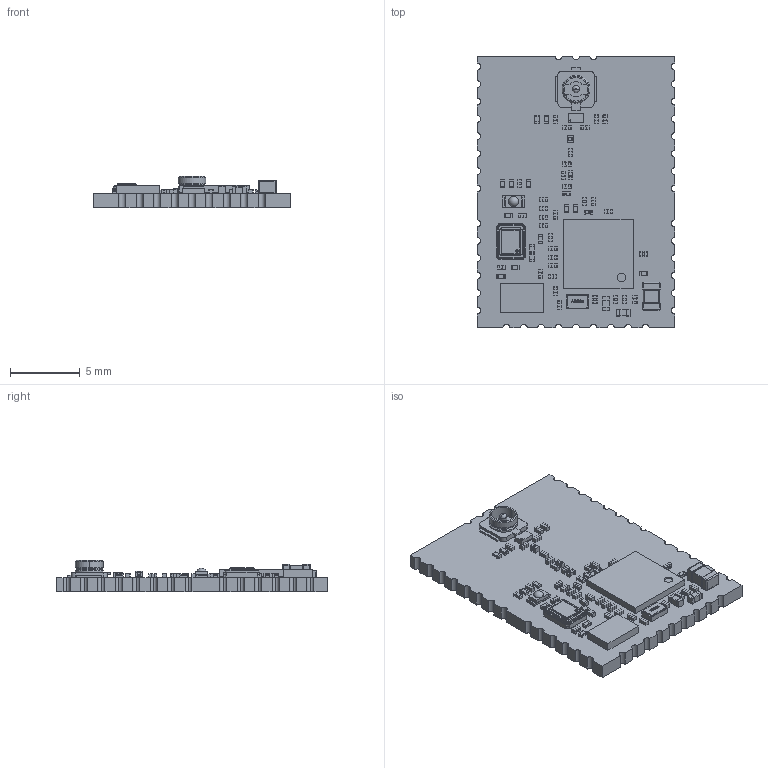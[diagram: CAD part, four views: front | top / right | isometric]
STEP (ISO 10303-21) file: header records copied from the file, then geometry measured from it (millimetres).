
FILE_DESCRIPTION(('Open CASCADE Model'),'2;1');
FILE_NAME('Open CASCADE Shape Model','2022-01-10T16:25:52',('Author'),( 'Open CASCADE'),'Open CASCADE STEP processor 6.8','Open CASCADE 6.8' ,'Unknown');
FILE_SCHEMA(('AUTOMOTIVE_DESIGN { 1 0 10303 214 1 1 1 1 }'));
Length unit declared in the file: millimetre
Products named in the file (134): PCB; Board; Open CASCADE STEP translator 6.8 10.1.1; Open CASCADE STEP translator 6.8 10.1.1.1; JP301; 6695798944; Extruded; 6695795264; 6695798864; C308; R0201; C304; X301; User_Library-NT2016SA-END4910A-48MHZ_Crystal_(NDK); X300; User_Library-Crystal_NDK_NX2520SA_series; R302; Y200; ABS05; R307; R306; C208; User_Library-cap_0201; C205; J303; U.FL-R-SMT-1; U301; User_Library-6-XFDFN-1; chipBody; pin02; pin04; pin06; pin01; pin03; pin05; pinOut005; pinOut006; pinOut003; pinOut008; pinOut007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
Assembly tree (312 placements, depth 5):
  PCB
    Board
      Open CASCADE STEP translator 6.8 10.1.1
        Open CASCADE STEP translator 6.8 10.1.1.1
    JP301
      6695798944
        Extruded
      6695795264
        Extruded
      6695798864
        Extruded
    C308
      R0201
      R0201
      R0201
      R0201
    C304
      R0201
      R0201
      R0201
      R0201
    X301
      User_Library-NT2016SA-END4910A-48MHZ_Crystal_(NDK)
    X300
      User_Library-Crystal_NDK_NX2520SA_series
    R302
      R0201
      R0201
      R0201
      R0201
    JP301
      6695798864
        Extruded
      6695795264
        Extruded
      6695798944
        Extruded
    Y200
      ABS05
    R307
      R0201
      R0201
      R0201
      R0201
    R306
      R0201
      R0201
      R0201
      R0201
    C208
      User_Library-cap_0201
    C205
      User_Library-cap_0201
    J303
      U.FL-R-SMT-1
    U301
      User_Library-6-XFDFN-1
        chipBody
        pin02
        pin04
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Bounding box: 14.2 x 19.5 x 2.28 mm (x, y, z)
Volume: 308.5 mm3; surface area: 908.2 mm2
Topology: 225 solids, 253 shells, 3392 faces, 8123 edges, 4859 vertices
Faces by surface type: plane 1776, cylinder 1077, sphere 428, bspline 61, torus 40, cone 8, revolution 2
Full cylindrical faces by diameter (mm): 0.1 x3, 0.2 x1, 0.625 x1
Entity records: 45452 total; most frequent: CARTESIAN_POINT 9409, DIRECTION 6180, ORIENTED_EDGE 5567, EDGE_CURVE 2821, AXIS2_PLACEMENT_3D 2098, LINE 1982, VECTOR 1982, VERTEX_POINT 1817
